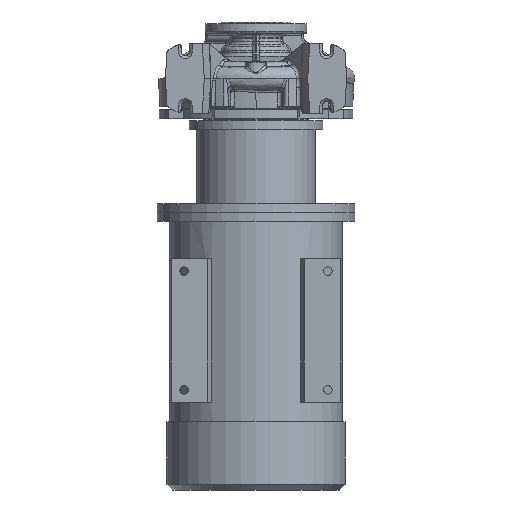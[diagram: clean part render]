
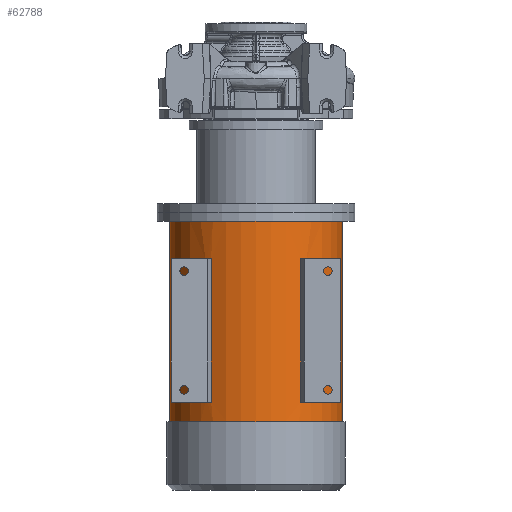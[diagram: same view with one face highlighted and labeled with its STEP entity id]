
A CAD part, front view. The second image highlights one B-rep face of the part: STEP entity #62788.
In plain terms, the highlighted cylindrical face has radius 152.5 mm (diameter 305 mm), a partial arc.
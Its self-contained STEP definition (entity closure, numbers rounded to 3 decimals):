
#627 = DIRECTION ( 'NONE',  ( 0., 0., 1. ) ) ;
#1003 = CARTESIAN_POINT ( 'NONE',  ( -89.37, -123.569, -727.3 ) ) ;
#1604 = DIRECTION ( 'NONE',  ( 0., 0., -1. ) ) ;
#2586 = CARTESIAN_POINT ( 'NONE',  ( 152.5, 0., -606.3 ) ) ;
#3590 = DIRECTION ( 'NONE',  ( 0., 0., 1. ) ) ;
#4205 = CARTESIAN_POINT ( 'NONE',  ( 79.357, -130.226, -727.3 ) ) ;
#5780 = EDGE_CURVE ( 'NONE', #58991, #80471, #62982, .T. ) ;
#7015 = VECTOR ( 'NONE', #24101, 1000. ) ;
#7873 = EDGE_CURVE ( 'NONE', #53961, #40396, #43928, .T. ) ;
#8283 = AXIS2_PLACEMENT_3D ( 'NONE', #63705, #627, #22206 ) ;
#8436 = AXIS2_PLACEMENT_3D ( 'NONE', #47170, #12841, #87926 ) ;
#9408 = CARTESIAN_POINT ( 'NONE',  ( 0., 0., -318.8 ) ) ;
#9757 = DIRECTION ( 'NONE',  ( 1., 0., 0. ) ) ;
#9875 = FACE_BOUND ( 'NONE', #30468, .T. ) ;
#10062 = DIRECTION ( 'NONE',  ( 0., 0., -1. ) ) ;
#10251 = EDGE_CURVE ( 'NONE', #89813, #58991, #77681, .T. ) ;
#11045 = EDGE_CURVE ( 'NONE', #33714, #67698, #50918, .T. ) ;
#12841 = DIRECTION ( 'NONE',  ( 0., 0., -1. ) ) ;
#16286 = CARTESIAN_POINT ( 'NONE',  ( 152.5, 0., -252.3 ) ) ;
#16457 = EDGE_CURVE ( 'NONE', #89813, #83490, #24690, .T. ) ;
#18838 = EDGE_CURVE ( 'NONE', #25371, #40396, #85233, .T. ) ;
#19263 = CARTESIAN_POINT ( 'NONE',  ( -79.357, -130.226, -318.8 ) ) ;
#19346 = DIRECTION ( 'NONE',  ( 0., 0., -1. ) ) ;
#21282 = ORIENTED_EDGE ( 'NONE', *, *, #7873, .T. ) ;
#21539 = ORIENTED_EDGE ( 'NONE', *, *, #10251, .F. ) ;
#22206 = DIRECTION ( 'NONE',  ( -1., 0., 0. ) ) ;
#23752 = CARTESIAN_POINT ( 'NONE',  ( -89.37, -123.569, -571.8 ) ) ;
#24101 = DIRECTION ( 'NONE',  ( 0., 0., -1. ) ) ;
#24252 = LINE ( 'NONE', #4205, #40509 ) ;
#24690 = CIRCLE ( 'NONE', #67418, 152.5 ) ;
#25108 = CARTESIAN_POINT ( 'NONE',  ( 0., 0., -252.3 ) ) ;
#25371 = VERTEX_POINT ( 'NONE', #74262 ) ;
#27561 = DIRECTION ( 'NONE',  ( 0., 0., -1. ) ) ;
#28381 = FACE_BOUND ( 'NONE', #29860, .T. ) ;
#28422 = AXIS2_PLACEMENT_3D ( 'NONE', #25108, #52959, #46645 ) ;
#29860 = EDGE_LOOP ( 'NONE', ( #32397, #86044, #40483, #21282 ) ) ;
#30361 = DIRECTION ( 'NONE',  ( 1., 0., 0. ) ) ;
#30468 = EDGE_LOOP ( 'NONE', ( #21539, #57092, #57545, #61410 ) ) ;
#30815 = LINE ( 'NONE', #79017, #89606 ) ;
#31605 = AXIS2_PLACEMENT_3D ( 'NONE', #79079, #37464, #86109 ) ;
#32397 = ORIENTED_EDGE ( 'NONE', *, *, #18838, .F. ) ;
#33591 = VECTOR ( 'NONE', #27561, 1000. ) ;
#33714 = VERTEX_POINT ( 'NONE', #16286 ) ;
#35134 = AXIS2_PLACEMENT_3D ( 'NONE', #9408, #37648, #30361 ) ;
#35248 = EDGE_CURVE ( 'NONE', #67698, #66848, #68597, .T. ) ;
#37464 = DIRECTION ( 'NONE',  ( 0., 0., 1. ) ) ;
#37648 = DIRECTION ( 'NONE',  ( 0., 0., -1. ) ) ;
#39615 = CARTESIAN_POINT ( 'NONE',  ( 0., 0., -606.3 ) ) ;
#39776 = CARTESIAN_POINT ( 'NONE',  ( -152.5, 0., -252.3 ) ) ;
#39925 = DIRECTION ( 'NONE',  ( -1., 0., 0. ) ) ;
#40065 = VERTEX_POINT ( 'NONE', #39776 ) ;
#40396 = VERTEX_POINT ( 'NONE', #73269 ) ;
#40483 = ORIENTED_EDGE ( 'NONE', *, *, #87515, .T. ) ;
#40509 = VECTOR ( 'NONE', #3590, 1000. ) ;
#42485 = CARTESIAN_POINT ( 'NONE',  ( -152.5, 0., -606.3 ) ) ;
#43928 = LINE ( 'NONE', #44126, #7015 ) ;
#44126 = CARTESIAN_POINT ( 'NONE',  ( 89.37, -123.569, -727.3 ) ) ;
#44916 = EDGE_LOOP ( 'NONE', ( #57019, #65766, #58833, #82147 ) ) ;
#45282 = CARTESIAN_POINT ( 'NONE',  ( 0., 0., -571.8 ) ) ;
#46645 = DIRECTION ( 'NONE',  ( -1., 0., 0. ) ) ;
#47125 = VECTOR ( 'NONE', #1604, 1000. ) ;
#47170 = CARTESIAN_POINT ( 'NONE',  ( 0., 0., -727.3 ) ) ;
#49283 = DIRECTION ( 'NONE',  ( 0., 0., 1. ) ) ;
#50918 = LINE ( 'NONE', #62394, #33591 ) ;
#52959 = DIRECTION ( 'NONE',  ( 0., 0., -1. ) ) ;
#53961 = VERTEX_POINT ( 'NONE', #76389 ) ;
#54248 = CIRCLE ( 'NONE', #8283, 152.5 ) ;
#56596 = CARTESIAN_POINT ( 'NONE',  ( 79.357, -130.226, -318.8 ) ) ;
#57019 = ORIENTED_EDGE ( 'NONE', *, *, #11045, .F. ) ;
#57092 = ORIENTED_EDGE ( 'NONE', *, *, #16457, .T. ) ;
#57545 = ORIENTED_EDGE ( 'NONE', *, *, #61716, .F. ) ;
#58833 = ORIENTED_EDGE ( 'NONE', *, *, #85871, .T. ) ;
#58991 = VERTEX_POINT ( 'NONE', #19263 ) ;
#61410 = ORIENTED_EDGE ( 'NONE', *, *, #5780, .F. ) ;
#61716 = EDGE_CURVE ( 'NONE', #80471, #83490, #67673, .T. ) ;
#62203 = AXIS2_PLACEMENT_3D ( 'NONE', #39615, #19346, #39925 ) ;
#62394 = CARTESIAN_POINT ( 'NONE',  ( 152.5, 0., -727.3 ) ) ;
#62788 = ADVANCED_FACE ( 'NONE', ( #64116, #28381, #9875 ), #67319, .T. ) ;
#62982 = CIRCLE ( 'NONE', #35134, 152.5 ) ;
#63705 = CARTESIAN_POINT ( 'NONE',  ( 0., 0., -318.8 ) ) ;
#64116 = FACE_OUTER_BOUND ( 'NONE', #44916, .T. ) ;
#65687 = VERTEX_POINT ( 'NONE', #56596 ) ;
#65766 = ORIENTED_EDGE ( 'NONE', *, *, #71766, .T. ) ;
#66783 = CARTESIAN_POINT ( 'NONE',  ( -89.37, -123.569, -318.8 ) ) ;
#66848 = VERTEX_POINT ( 'NONE', #42485 ) ;
#67319 = CYLINDRICAL_SURFACE ( 'NONE', #8436, 152.5 ) ;
#67418 = AXIS2_PLACEMENT_3D ( 'NONE', #45282, #85742, #9757 ) ;
#67673 = LINE ( 'NONE', #1003, #47125 ) ;
#67698 = VERTEX_POINT ( 'NONE', #2586 ) ;
#68597 = CIRCLE ( 'NONE', #62203, 152.5 ) ;
#69438 = CARTESIAN_POINT ( 'NONE',  ( -79.357, -130.226, -571.8 ) ) ;
#69851 = CARTESIAN_POINT ( 'NONE',  ( -79.357, -130.226, -727.3 ) ) ;
#71766 = EDGE_CURVE ( 'NONE', #33714, #40065, #75657, .T. ) ;
#73269 = CARTESIAN_POINT ( 'NONE',  ( 89.37, -123.569, -571.8 ) ) ;
#74262 = CARTESIAN_POINT ( 'NONE',  ( 79.357, -130.226, -571.8 ) ) ;
#75657 = CIRCLE ( 'NONE', #28422, 152.5 ) ;
#76389 = CARTESIAN_POINT ( 'NONE',  ( 89.37, -123.569, -318.8 ) ) ;
#77681 = LINE ( 'NONE', #69851, #88664 ) ;
#79017 = CARTESIAN_POINT ( 'NONE',  ( -152.5, 0., -727.3 ) ) ;
#79064 = EDGE_CURVE ( 'NONE', #25371, #65687, #24252, .T. ) ;
#79079 = CARTESIAN_POINT ( 'NONE',  ( 0., 0., -571.8 ) ) ;
#80471 = VERTEX_POINT ( 'NONE', #66783 ) ;
#82147 = ORIENTED_EDGE ( 'NONE', *, *, #35248, .F. ) ;
#83490 = VERTEX_POINT ( 'NONE', #23752 ) ;
#85233 = CIRCLE ( 'NONE', #31605, 152.5 ) ;
#85742 = DIRECTION ( 'NONE',  ( 0., 0., -1. ) ) ;
#85871 = EDGE_CURVE ( 'NONE', #40065, #66848, #30815, .T. ) ;
#86044 = ORIENTED_EDGE ( 'NONE', *, *, #79064, .T. ) ;
#86109 = DIRECTION ( 'NONE',  ( -1., 0., 0. ) ) ;
#87515 = EDGE_CURVE ( 'NONE', #65687, #53961, #54248, .T. ) ;
#87926 = DIRECTION ( 'NONE',  ( -1., 0., 0. ) ) ;
#88664 = VECTOR ( 'NONE', #49283, 1000. ) ;
#89606 = VECTOR ( 'NONE', #10062, 1000. ) ;
#89813 = VERTEX_POINT ( 'NONE', #69438 ) ;
